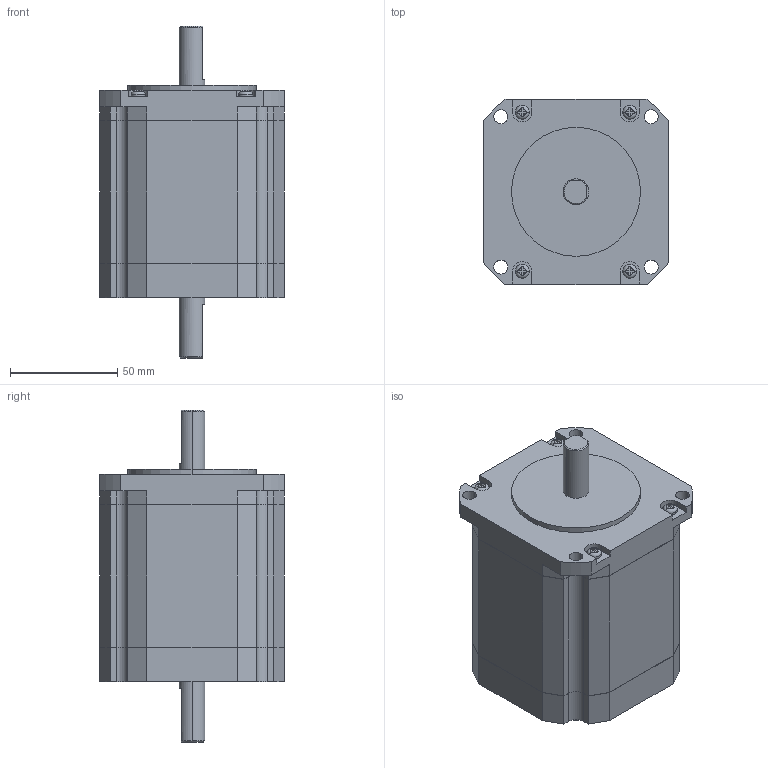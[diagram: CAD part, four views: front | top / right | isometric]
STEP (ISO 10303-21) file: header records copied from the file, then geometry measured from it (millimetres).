
FILE_DESCRIPTION (( 'STEP AP214' ), '1' );
FILE_NAME ('TS3630N22.STEP', '2011-09-15T09:03:12', ( '' ), ( '' ), 'SwSTEP 2.0', 'SolidWorks 2010', '' );
FILE_SCHEMA (( 'AUTOMOTIVE_DESIGN' ));
Length unit declared in the file: millimetre
Products named in the file (1): TS3630N22
Bounding box: 86 x 86 x 154.5 mm (x, y, z)
Volume: 647191.2 mm3; surface area: 47339.7 mm2
Topology: 1 solids, 1 shells, 218 faces, 608 edges, 401 vertices
Faces by surface type: plane 143, cylinder 62, torus 8, cone 5
Entity records: 7411 total; most frequent: CARTESIAN_POINT 1412, ORIENTED_EDGE 1216, DIRECTION 1171, EDGE_CURVE 608, LINE 403, VECTOR 403, VERTEX_POINT 401, AXIS2_PLACEMENT_3D 384
